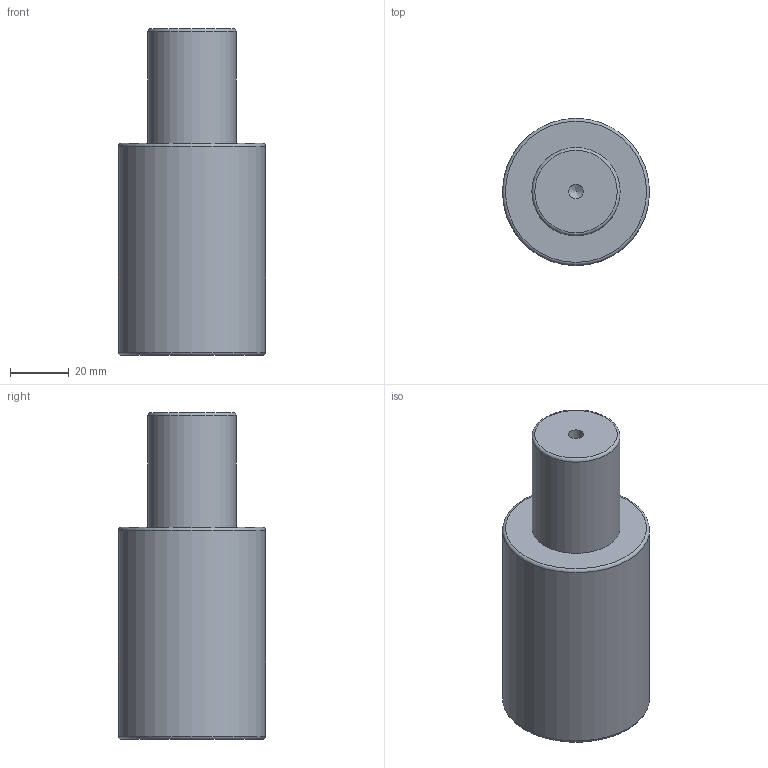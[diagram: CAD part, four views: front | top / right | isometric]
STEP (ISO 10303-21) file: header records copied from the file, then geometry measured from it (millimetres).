
FILE_DESCRIPTION(/* description */ (''),/* implementation_level */ '2;1');
FILE_NAME(/* name */ 'NV5-SMLX.50x38.stp',/* time_stamp */ '2018-08-31T16:08:33+02:00',/* author */ (''),/* organization */ (''),/* preprocessor_version */ 'ST-DEVELOPER v16',/* originating_system */ 'SIEMENS PLM Software NX 10.0',/* authorisation */ '');
FILE_SCHEMA (('AUTOMOTIVE_DESIGN { 1 0 10303 214 3 1 1 1 }'));
Length unit declared in the file: millimetre
Products named in the file (1): NV5-SMLX.50x38
Bounding box: 50 x 50 x 111 mm (x, y, z)
Volume: 167613.6 mm3; surface area: 19375.2 mm2
Topology: 1 solids, 1 shells, 12 faces, 24 edges, 15 vertices
Faces by surface type: cylinder 4, torus 3, plane 3, cone 2
Full cylindrical faces by diameter (mm): 5 x1, 8.5 x1, 30 x1, 50 x1
Entity records: 266 total; most frequent: DIRECTION 48, CARTESIAN_POINT 37, FACE_BOUND 24, AXIS2_PLACEMENT_3D 24, EDGE_LOOP 22, ORIENTED_EDGE 22, VERTEX_POINT 13, ADVANCED_FACE 12
